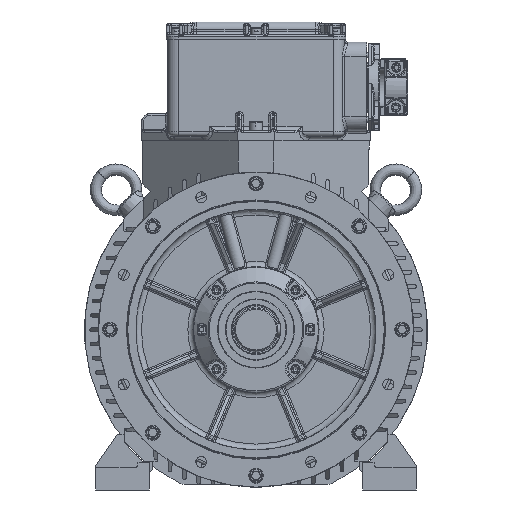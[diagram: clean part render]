
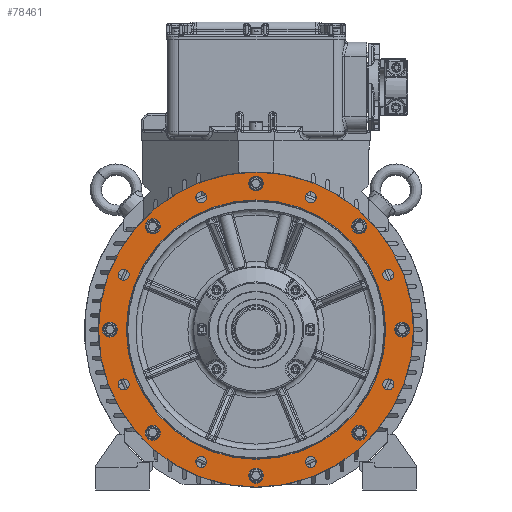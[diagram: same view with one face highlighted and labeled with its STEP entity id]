
A CAD part, left-side view. The second image highlights one B-rep face of the part: STEP entity #78461.
In plain terms, the highlighted planar face has unit normal (-1, 0, 0).
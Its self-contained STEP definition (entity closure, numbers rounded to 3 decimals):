
#1755=PLANE('',#83014);
#11661=CIRCLE('',#83002,275.);
#11662=CIRCLE('',#83012,226.4);
#11664=CIRCLE('',#83015,9.5);
#11665=CIRCLE('',#83016,9.5);
#11666=CIRCLE('',#83017,9.5);
#11667=CIRCLE('',#83018,9.5);
#11668=CIRCLE('',#83019,9.5);
#11669=CIRCLE('',#83020,9.5);
#11670=CIRCLE('',#83021,9.5);
#11671=CIRCLE('',#83022,9.5);
#11672=CIRCLE('',#83023,13.);
#11673=CIRCLE('',#83024,13.);
#11674=CIRCLE('',#83025,13.);
#11675=CIRCLE('',#83026,13.);
#11676=CIRCLE('',#83027,13.);
#11677=CIRCLE('',#83028,13.);
#11678=CIRCLE('',#83029,13.);
#11679=CIRCLE('',#83030,13.);
#20230=ORIENTED_EDGE('',*,*,#33636,.F.);
#20231=ORIENTED_EDGE('',*,*,#33637,.F.);
#20232=ORIENTED_EDGE('',*,*,#33638,.F.);
#20233=ORIENTED_EDGE('',*,*,#33639,.F.);
#20234=ORIENTED_EDGE('',*,*,#33640,.F.);
#20235=ORIENTED_EDGE('',*,*,#33641,.F.);
#20236=ORIENTED_EDGE('',*,*,#33642,.F.);
#20237=ORIENTED_EDGE('',*,*,#33643,.F.);
#20238=ORIENTED_EDGE('',*,*,#33644,.T.);
#20239=ORIENTED_EDGE('',*,*,#33645,.T.);
#20240=ORIENTED_EDGE('',*,*,#33646,.T.);
#20241=ORIENTED_EDGE('',*,*,#33647,.T.);
#20242=ORIENTED_EDGE('',*,*,#33648,.T.);
#20243=ORIENTED_EDGE('',*,*,#33649,.T.);
#20244=ORIENTED_EDGE('',*,*,#33650,.T.);
#20245=ORIENTED_EDGE('',*,*,#33651,.T.);
#20246=ORIENTED_EDGE('',*,*,#33632,.T.);
#20247=ORIENTED_EDGE('',*,*,#33634,.F.);
#33632=EDGE_CURVE('',#40742,#40742,#11661,.T.);
#33634=EDGE_CURVE('',#40744,#40744,#11662,.T.);
#33636=EDGE_CURVE('',#40746,#40746,#11664,.T.);
#33637=EDGE_CURVE('',#40747,#40747,#11665,.T.);
#33638=EDGE_CURVE('',#40748,#40748,#11666,.T.);
#33639=EDGE_CURVE('',#40749,#40749,#11667,.T.);
#33640=EDGE_CURVE('',#40750,#40750,#11668,.T.);
#33641=EDGE_CURVE('',#40751,#40751,#11669,.T.);
#33642=EDGE_CURVE('',#40752,#40752,#11670,.T.);
#33643=EDGE_CURVE('',#40753,#40753,#11671,.T.);
#33644=EDGE_CURVE('',#40754,#40754,#11672,.T.);
#33645=EDGE_CURVE('',#40755,#40755,#11673,.T.);
#33646=EDGE_CURVE('',#40756,#40756,#11674,.T.);
#33647=EDGE_CURVE('',#40757,#40757,#11675,.T.);
#33648=EDGE_CURVE('',#40758,#40758,#11676,.T.);
#33649=EDGE_CURVE('',#40759,#40759,#11677,.T.);
#33650=EDGE_CURVE('',#40760,#40760,#11678,.T.);
#33651=EDGE_CURVE('',#40761,#40761,#11679,.T.);
#40742=VERTEX_POINT('',#113535);
#40744=VERTEX_POINT('',#113558);
#40746=VERTEX_POINT('',#113563);
#40747=VERTEX_POINT('',#113565);
#40748=VERTEX_POINT('',#113567);
#40749=VERTEX_POINT('',#113569);
#40750=VERTEX_POINT('',#113571);
#40751=VERTEX_POINT('',#113573);
#40752=VERTEX_POINT('',#113575);
#40753=VERTEX_POINT('',#113577);
#40754=VERTEX_POINT('',#113579);
#40755=VERTEX_POINT('',#113581);
#40756=VERTEX_POINT('',#113583);
#40757=VERTEX_POINT('',#113585);
#40758=VERTEX_POINT('',#113587);
#40759=VERTEX_POINT('',#113589);
#40760=VERTEX_POINT('',#113591);
#40761=VERTEX_POINT('',#113593);
#46332=EDGE_LOOP('',(#20230));
#46333=EDGE_LOOP('',(#20231));
#46334=EDGE_LOOP('',(#20232));
#46335=EDGE_LOOP('',(#20233));
#46336=EDGE_LOOP('',(#20234));
#46337=EDGE_LOOP('',(#20235));
#46338=EDGE_LOOP('',(#20236));
#46339=EDGE_LOOP('',(#20237));
#46340=EDGE_LOOP('',(#20238));
#46341=EDGE_LOOP('',(#20239));
#46342=EDGE_LOOP('',(#20240));
#46343=EDGE_LOOP('',(#20241));
#46344=EDGE_LOOP('',(#20242));
#46345=EDGE_LOOP('',(#20243));
#46346=EDGE_LOOP('',(#20244));
#46347=EDGE_LOOP('',(#20245));
#46348=EDGE_LOOP('',(#20246));
#46349=EDGE_LOOP('',(#20247));
#50226=FACE_BOUND('',#46332,.T.);
#50227=FACE_BOUND('',#46333,.T.);
#50228=FACE_BOUND('',#46334,.T.);
#50229=FACE_BOUND('',#46335,.T.);
#50230=FACE_BOUND('',#46336,.T.);
#50231=FACE_BOUND('',#46337,.T.);
#50232=FACE_BOUND('',#46338,.T.);
#50233=FACE_BOUND('',#46339,.T.);
#50234=FACE_BOUND('',#46340,.T.);
#50235=FACE_BOUND('',#46341,.T.);
#50236=FACE_BOUND('',#46342,.T.);
#50237=FACE_BOUND('',#46343,.T.);
#50238=FACE_BOUND('',#46344,.T.);
#50239=FACE_BOUND('',#46345,.T.);
#50240=FACE_BOUND('',#46346,.T.);
#50241=FACE_BOUND('',#46347,.T.);
#50242=FACE_BOUND('',#46348,.T.);
#50243=FACE_BOUND('',#46349,.T.);
#78461=ADVANCED_FACE('',(#50226,#50227,#50228,#50229,#50230,#50231,#50232,
#50233,#50234,#50235,#50236,#50237,#50238,#50239,#50240,#50241,#50242,#50243),
#1755,.T.);
#83002=AXIS2_PLACEMENT_3D('',#113534,#93508,#93509);
#83012=AXIS2_PLACEMENT_3D('',#113557,#93528,#93529);
#83014=AXIS2_PLACEMENT_3D('',#113561,#93532,#93533);
#83015=AXIS2_PLACEMENT_3D('',#113562,#93534,#93535);
#83016=AXIS2_PLACEMENT_3D('',#113564,#93536,#93537);
#83017=AXIS2_PLACEMENT_3D('',#113566,#93538,#93539);
#83018=AXIS2_PLACEMENT_3D('',#113568,#93540,#93541);
#83019=AXIS2_PLACEMENT_3D('',#113570,#93542,#93543);
#83020=AXIS2_PLACEMENT_3D('',#113572,#93544,#93545);
#83021=AXIS2_PLACEMENT_3D('',#113574,#93546,#93547);
#83022=AXIS2_PLACEMENT_3D('',#113576,#93548,#93549);
#83023=AXIS2_PLACEMENT_3D('',#113578,#93550,#93551);
#83024=AXIS2_PLACEMENT_3D('',#113580,#93552,#93553);
#83025=AXIS2_PLACEMENT_3D('',#113582,#93554,#93555);
#83026=AXIS2_PLACEMENT_3D('',#113584,#93556,#93557);
#83027=AXIS2_PLACEMENT_3D('',#113586,#93558,#93559);
#83028=AXIS2_PLACEMENT_3D('',#113588,#93560,#93561);
#83029=AXIS2_PLACEMENT_3D('',#113590,#93562,#93563);
#83030=AXIS2_PLACEMENT_3D('',#113592,#93564,#93565);
#93508=DIRECTION('',(-1.,0.,0.));
#93509=DIRECTION('',(0.,0.,1.));
#93528=DIRECTION('',(-1.,0.,0.));
#93529=DIRECTION('',(0.,0.,1.));
#93532=DIRECTION('',(-1.,0.,0.));
#93533=DIRECTION('',(0.,0.,1.));
#93534=DIRECTION('',(-1.,0.,0.));
#93535=DIRECTION('',(0.,-1.,0.));
#93536=DIRECTION('',(-1.,0.,0.));
#93537=DIRECTION('',(0.,-1.,0.));
#93538=DIRECTION('',(-1.,0.,0.));
#93539=DIRECTION('',(0.,-1.,0.));
#93540=DIRECTION('',(-1.,0.,0.));
#93541=DIRECTION('',(0.,-1.,0.));
#93542=DIRECTION('',(-1.,0.,0.));
#93543=DIRECTION('',(0.,-1.,0.));
#93544=DIRECTION('',(-1.,0.,0.));
#93545=DIRECTION('',(0.,-1.,0.));
#93546=DIRECTION('',(-1.,0.,0.));
#93547=DIRECTION('',(0.,-1.,0.));
#93548=DIRECTION('',(-1.,0.,0.));
#93549=DIRECTION('',(0.,-1.,0.));
#93550=DIRECTION('',(1.,0.,0.));
#93551=DIRECTION('',(0.,0.,1.));
#93552=DIRECTION('',(1.,0.,0.));
#93553=DIRECTION('',(0.,0.,1.));
#93554=DIRECTION('',(1.,0.,0.));
#93555=DIRECTION('',(0.,0.,1.));
#93556=DIRECTION('',(1.,0.,0.));
#93557=DIRECTION('',(0.,0.,1.));
#93558=DIRECTION('',(1.,0.,0.));
#93559=DIRECTION('',(0.,0.,1.));
#93560=DIRECTION('',(1.,0.,0.));
#93561=DIRECTION('',(0.,0.,1.));
#93562=DIRECTION('',(1.,0.,0.));
#93563=DIRECTION('',(0.,0.,1.));
#93564=DIRECTION('',(1.,0.,0.));
#93565=DIRECTION('',(0.,0.,1.));
#113534=CARTESIAN_POINT('',(-64.,0.,0.));
#113535=CARTESIAN_POINT('',(-64.,0.,275.));
#113557=CARTESIAN_POINT('',(-64.,0.,0.));
#113558=CARTESIAN_POINT('',(-64.,0.,226.4));
#113561=CARTESIAN_POINT('',(-64.,0.,226.4));
#113562=CARTESIAN_POINT('',(-64.,-230.97,-95.671));
#113563=CARTESIAN_POINT('',(-64.,-240.47,-95.671));
#113564=CARTESIAN_POINT('',(-64.,-95.671,-230.97));
#113565=CARTESIAN_POINT('',(-64.,-105.171,-230.97));
#113566=CARTESIAN_POINT('',(-64.,95.671,-230.97));
#113567=CARTESIAN_POINT('',(-64.,86.171,-230.97));
#113568=CARTESIAN_POINT('',(-64.,230.97,-95.671));
#113569=CARTESIAN_POINT('',(-64.,221.47,-95.671));
#113570=CARTESIAN_POINT('',(-64.,230.97,95.671));
#113571=CARTESIAN_POINT('',(-64.,221.47,95.671));
#113572=CARTESIAN_POINT('',(-64.,95.671,230.97));
#113573=CARTESIAN_POINT('',(-64.,86.171,230.97));
#113574=CARTESIAN_POINT('',(-64.,-95.671,230.97));
#113575=CARTESIAN_POINT('',(-64.,-105.171,230.97));
#113576=CARTESIAN_POINT('',(-64.,-230.97,95.671));
#113577=CARTESIAN_POINT('',(-64.,-240.47,95.671));
#113578=CARTESIAN_POINT('',(-64.,-180.312,-180.312));
#113579=CARTESIAN_POINT('',(-64.,-180.312,-167.312));
#113580=CARTESIAN_POINT('',(-64.,0.,-255.));
#113581=CARTESIAN_POINT('',(-64.,0.,-242.));
#113582=CARTESIAN_POINT('',(-64.,180.312,-180.312));
#113583=CARTESIAN_POINT('',(-64.,180.312,-167.312));
#113584=CARTESIAN_POINT('',(-64.,255.,0.));
#113585=CARTESIAN_POINT('',(-64.,255.,13.));
#113586=CARTESIAN_POINT('',(-64.,180.312,180.312));
#113587=CARTESIAN_POINT('',(-64.,180.312,193.312));
#113588=CARTESIAN_POINT('',(-64.,0.,255.));
#113589=CARTESIAN_POINT('',(-64.,0.,268.));
#113590=CARTESIAN_POINT('',(-64.,-180.312,180.312));
#113591=CARTESIAN_POINT('',(-64.,-180.312,193.312));
#113592=CARTESIAN_POINT('',(-64.,-255.,0.));
#113593=CARTESIAN_POINT('',(-64.,-255.,13.));
